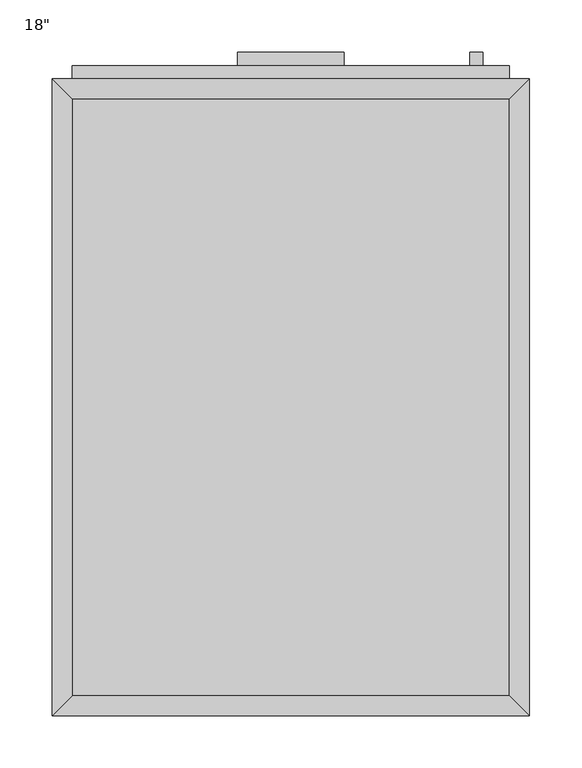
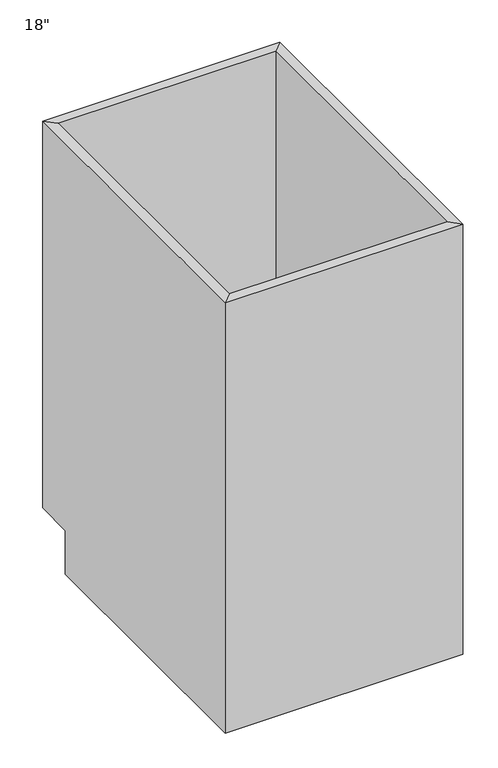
"""IFC4 building model written with IfcOpenShell, lengths in millimetres: furniture geometry."""

from ifc_helpers import new_model, si_unit, frame, origin, place, context, project, spatial, polyline, outline, extrude, faceted_brep, source, transform, mapped, element, save


def furniture_07bc9410(model_context):
    return source(origin(), model_context, "Body", "SolidModel", [
        faceted_brep([(228.2877049, 590.55, 876.3), (-190.8122951, 590.55, 876.3), (-190.8122951, 590.55, 88.9), (228.2877049, 590.55, 88.9), (247.3377049, 609.6, 876.3), (-209.8622951, 609.6, 876.3), (247.3377049, 609.6, 88.9), (-209.8622951, 609.6, 88.9), (-190.8122951, 19.05, 876.3), (-190.8122951, 19.05, 88.9), (-190.8122951, 533.4, 88.9), (-209.8622951, 0.0, 876.3), (-209.8622951, 533.4, 88.9), (-209.8622951, 533.4, 0.0), (-209.8622951, 0.0, 0.0), (228.2877049, 19.05, 876.3), (228.2877049, 19.05, 88.9), (247.3377049, 0.0, 876.3), (247.3377049, 0.0, 0.0), (228.2877049, 533.4, 88.9), (247.3377049, 533.4, 0.0), (247.3377049, 533.4, 88.9)], [[[0, 1, 2, 3]], [[0, 4, 5, 1]], [[4, 6, 7, 5]], [[2, 7, 6, 3]], [[1, 8, 9, 10, 2]], [[5, 11, 8, 1]], [[7, 12, 13, 14, 11, 5]], [[2, 10, 12, 7]], [[8, 15, 16, 9]], [[11, 17, 15, 8]], [[14, 18, 17, 11]], [[3, 19, 16, 15, 0]], [[0, 15, 17, 4]], [[4, 17, 18, 20, 21, 6]], [[6, 21, 19, 3]], [[10, 9, 16, 19]], [[18, 14, 13, 20]], [[13, 12, 10, 19, 21, 20]]]),
        extrude(outline(polyline([(202.8877049, 635.0), (202.8877049, 622.3), (190.1877049, 622.3), (190.1877049, 635.0), (202.8877049, 635.0)])), frame((0.0, 0.0, 596.9), z_axis=(0.0, 0.0, 1.0), x_axis=(1.0, 0.0, 0.0)), (0.0, 0.0, 1.0), 101.6),
        extrude(outline(polyline([(69.5377049, 635.0), (69.5377049, 622.3), (-32.0622951, 622.3), (-32.0622951, 635.0), (69.5377049, 635.0)])), frame((0.0, 0.0, 819.15), z_axis=(0.0, 0.0, 1.0), x_axis=(1.0, 0.0, 0.0)), (0.0, 0.0, 1.0), 12.7),
        extrude(outline(polyline([(228.2877049, 622.3), (228.2877049, 609.6), (-190.8122951, 609.6), (-190.8122951, 622.3), (228.2877049, 622.3)])), frame((0.0, 0.0, 107.95), z_axis=(0.0, 0.0, 1.0), x_axis=(1.0, 0.0, 0.0)), (0.0, 0.0, 1.0), 628.65),
        extrude(outline(polyline([(228.2877049, 622.3), (228.2877049, 609.6), (-190.8122951, 609.6), (-190.8122951, 622.3), (228.2877049, 622.3)])), frame((0.0, 0.0, 755.65), z_axis=(0.0, 0.0, 1.0), x_axis=(1.0, 0.0, 0.0)), (0.0, 0.0, 1.0), 101.6),
        extrude(outline(polyline([(228.2877049, 19.05), (-190.8122951, 19.05), (-190.8122951, 590.55), (228.2877049, 590.55), (228.2877049, 19.05)])), frame((0.0, 0.0, 88.9), z_axis=(0.0, 0.0, 1.0), x_axis=(1.0, 0.0, 0.0)), (0.0, 0.0, 1.0), 19.05),
    ])


if __name__ == "__main__":
    model = new_model("IFC4")
    model_context = context("Model", 3, world=origin())
    ifc_project = project(units=[si_unit("LENGTHUNIT", "METRE", prefix="MILLI")], contexts=[model_context])
    site = spatial("IfcSite", under=ifc_project)
    building = spatial("IfcBuilding", under=site)
    placement = place(None, origin())
    furniture_shape = furniture_07bc9410(model_context)
    element("IfcFurniture", 1, ObjectType="Base Cabinet-Single Door & Drawer : 18\"", at=placement, inside=building, context=model_context, shape_type="MappedRepresentation", body=[
        mapped(furniture_shape, transform((0.0, 0.0, 0.0), x_axis=(1.0, 0.0, 0.0), y_axis=(0.0, 1.0, 0.0), z_axis=(0.0, 0.0, 1.0))),
    ])
    save(model, "model.ifc")
